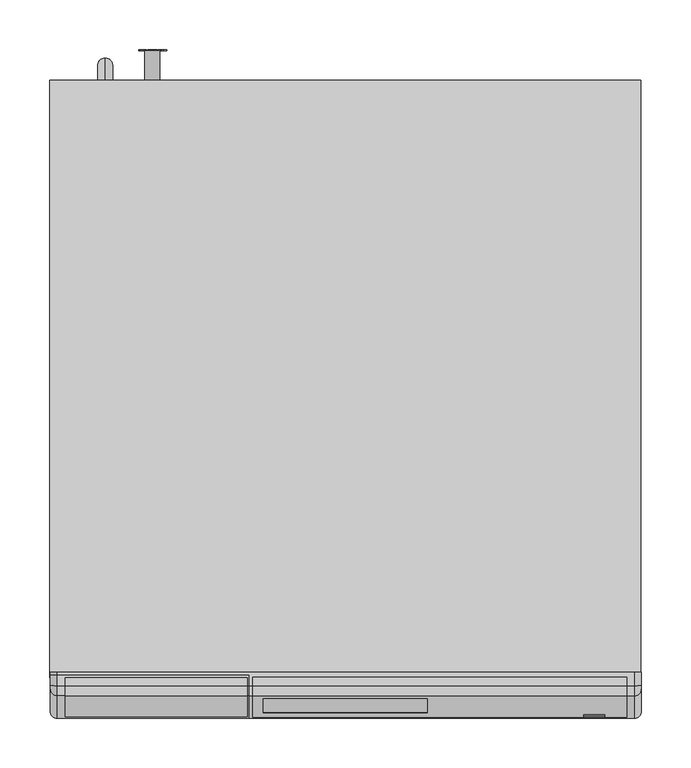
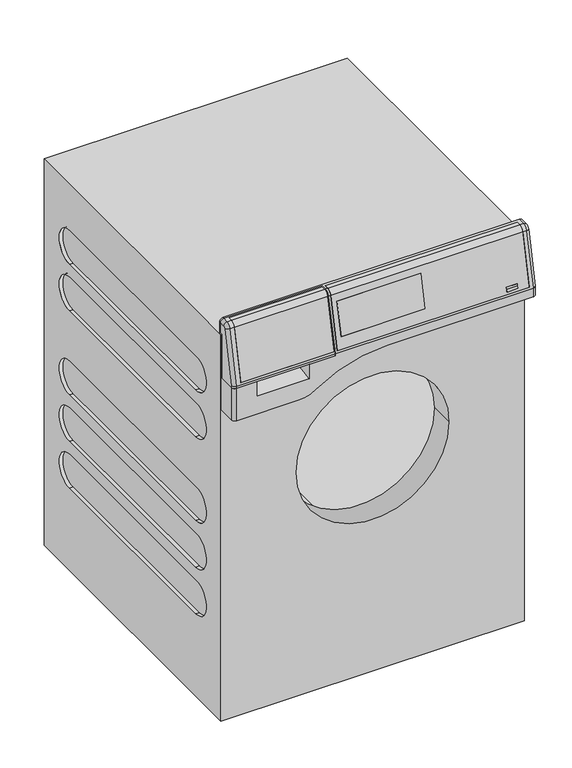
"""IFC4 building model written with IfcOpenShell, lengths in millimetres: proxy geometry, 11693340_GB_PWM307DP_LWCC : 51307172_GB_11693340_PWM307DP_LWCC."""

from ifc_helpers import new_model, si_unit, point, frame, frame_2d, origin, place, context, project, spatial, polyline, circle_curve, ellipse_curve, trimmed, segment, composite_curve, outline, extrude, source, transform, mapped, element, save
from ifc_brep_helpers import plane_surface, cylinder_surface, revolved_surface, advanced_brep


def specialty_equipment_33895398(model_context):
    return source(origin(), model_context, "Body", "SolidModel", [
        advanced_brep(
        [(-297.5, -634.5, 819.0), (-297.5, -640.0, 819.0), (-297.5, -640.0, 727.0), (-297.5, -671.0, 727.0), (-297.5, -671.0, 730.2642704), (-297.5, -648.6353607, 835.4816256), (-297.5, -644.8274781, 838.6486082), (-297.5, -634.5, 838.9190427), (-97.5, -655.4823939, 836.9370075), (-97.5, -678.0, 731.0), (-97.5, -678.0, 727.0), (-97.5, -640.0, 727.0), (-97.5, -640.0, 819.0), (-97.5, -634.5, 819.0), (-97.5, -634.5, 845.9214422), (-97.5, -645.0107168, 845.6462094), (-98.5, -655.4823939, 836.9370075), (-98.5, -677.1497738, 735.0), (-282.5, -677.1497738, 735.0), (-282.5, -655.4823939, 836.9370075), (-290.5, -655.4823939, 836.9370075), (-290.5, -678.0, 731.0), (-290.5, -678.0, 727.0), (-290.5, -634.5, 845.9214422), (-290.5, -645.0107168, 845.6462094), (-282.5, -645.0107168, 845.6462094), (-282.5, -636.5, 845.8690704), (-98.5, -636.5, 845.8690704), (-98.5, -645.0107168, 845.6462094), (-98.5, -654.5042463, 836.7290958), (-98.5, -676.1274332, 735.0), (-98.5, -636.5, 844.8687276), (-98.5, -644.9845398, 844.6465521), (-282.5, -654.5042463, 836.7290958), (-282.5, -644.9845398, 844.6465521), (-282.5, -636.5, 844.8687276), (-282.5, -676.1274332, 735.0)],
        [
            (0, 1),
            (1, 2),
            (2, 3),
            (3, 4),
            (4, 5),
            (5, 6, circle_curve(frame((-297.5, -644.7227703, 834.6499789), z_axis=(-1.0, 0.0, 0.0), x_axis=(0.0, -0.978147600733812, 0.20791169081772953)), 4.0)),
            (6, 7),
            (7, 0),
            (8, 9),
            (9, 10),
            (10, 11),
            (11, 12),
            (12, 13),
            (13, 14),
            (14, 15),
            (15, 8, circle_curve(frame((-97.5, -644.7227703, 834.6499789), z_axis=(1.0, 0.0, 0.0), x_axis=(0.0, 1.0, 0.0)), 11.0)),
            (8, 16),
            (16, 17),
            (17, 18),
            (18, 19),
            (19, 20),
            (20, 21),
            (21, 9),
            (21, 22),
            (22, 10),
            (22, 3, circle_curve(frame((-290.5, -671.0, 727.0), z_axis=(0.0, 0.0, -1.0), x_axis=(0.0, 1.0, 0.0)), 7.0)),
            (2, 11),
            (1, 12),
            (0, 13),
            (7, 23, ellipse_curve(frame((-290.5, -634.5, 838.9190427), z_axis=(0.0, 1.0, 0.0), x_axis=(0.0, 0.0, 1.0)), 7.0023995, 7.0)),
            (23, 14),
            (23, 24),
            (24, 25),
            (25, 26),
            (26, 27),
            (27, 28),
            (28, 15),
            (28, 16, circle_curve(frame((-98.5, -644.7227703, 834.6499789), z_axis=(1.0, 0.0, 0.0), x_axis=(0.0, 1.0, 0.0)), 11.0)),
            (19, 25, circle_curve(frame((-282.5, -644.7227703, 834.6499789), z_axis=(-1.0, 0.0, 0.0), x_axis=(0.0, 1.0, 0.0)), 11.0)),
            (24, 20, circle_curve(frame((-290.5, -644.7227703, 834.6499789), z_axis=(1.0, 0.0, 0.0), x_axis=(0.0, 1.0, 0.0)), 11.0)),
            (29, 30),
            (30, 17),
            (27, 31),
            (31, 32),
            (32, 29, circle_curve(frame((-98.5, -644.7227703, 834.6499789), z_axis=(1.0, 0.0, 0.0), x_axis=(0.0, 1.0, 0.0)), 10.0)),
            (33, 34, circle_curve(frame((-282.5, -644.7227703, 834.6499789), z_axis=(-1.0, 0.0, 0.0), x_axis=(0.0, 1.0, 0.0)), 10.0)),
            (34, 35),
            (35, 26),
            (18, 36),
            (36, 33),
            (29, 33),
            (36, 30),
            (32, 34),
            (31, 35),
            (6, 24, circle_curve(frame((-290.5, -644.8274781, 838.6486082), z_axis=(0.0, 0.9996573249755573, 0.026176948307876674), x_axis=(0.0, 0.026176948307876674, -0.9996573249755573)), 7.0)),
            (21, 4, ellipse_curve(frame((-290.5, -671.0, 730.2642704), z_axis=(0.0, -0.10452846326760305, -0.9945218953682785), x_axis=(0.0, -0.9945218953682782, 0.1045284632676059)), 7.038558, 7.0)),
            (20, 5, circle_curve(frame((-290.5, -648.6353607, 835.4816256), z_axis=(0.0, -0.2079116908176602, -0.9781476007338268), x_axis=(0.0, 0.9781476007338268, -0.2079116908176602)), 7.0)),
        ],
        [
            plane_surface(frame((-297.5, -655.4823939, 836.9370075), z_axis=(-1.0, 0.0, 0.0), x_axis=(0.0, 0.20791169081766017, 0.9781476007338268))),
            plane_surface(frame((-97.5, -655.4823939, 836.9370075), z_axis=(1.0, 0.0, 0.0), x_axis=(0.0, -0.20791169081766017, -0.9781476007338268))),
            plane_surface(frame((-97.5, -655.4823939, 836.9370075), z_axis=(0.0, -0.9781476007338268, 0.20791169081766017), x_axis=(-1.0, 0.0, 0.0))),
            plane_surface(frame((-97.5, -678.0, 731.0), z_axis=(0.0, -1.0, 0.0), x_axis=(-1.0, 0.0, 0.0))),
            plane_surface(frame((-97.5, -678.0, 727.0), z_axis=(0.0, 0.0, -1.0), x_axis=(-1.0, 0.0, 0.0))),
            plane_surface(frame((-97.5, -640.0, 727.0), z_axis=(0.0, 1.0, 0.0), x_axis=(-1.0, 0.0, 0.0))),
            plane_surface(frame((-97.5, -640.0, 819.0), z_axis=(0.0, 0.0, -1.0), x_axis=(-1.0, 0.0, 0.0))),
            plane_surface(frame((-97.5, -634.5, 819.0), z_axis=(0.0, 1.0, 0.0), x_axis=(-1.0, 0.0, 0.0))),
            plane_surface(frame((-97.5, -634.5, 845.9214422), z_axis=(0.0, -0.02617694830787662, 0.9996573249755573), x_axis=(-1.0, 0.0, 0.0))),
            cylinder_surface(frame((-297.5, -644.7227703, 834.6499789), z_axis=(1.0, 0.0, 0.0), x_axis=(0.0, 1.0, 0.0)), 11.0),
            plane_surface(frame((-98.5, -634.7227703, 834.6499789), z_axis=(-1.0, 0.0, 0.0), x_axis=(0.0, 0.0, -1.0))),
            plane_surface(frame((-282.5, -634.7227703, 834.6499789), z_axis=(1.0, 0.0, 0.0), x_axis=(0.0, 0.0, 1.0))),
            plane_surface(frame((-98.5, -676.1274332, 735.0), z_axis=(0.0, -0.9781476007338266, 0.2079116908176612), x_axis=(-1.0, 0.0, 0.0))),
            cylinder_surface(frame((-282.5, -644.7227703, 834.6499789), z_axis=(-1.0, 0.0, 0.0), x_axis=(0.0, 1.0, 0.0)), 10.0),
            plane_surface(frame((-98.5, -644.9845398, 844.6465521), z_axis=(0.0, -0.026176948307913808, 0.9996573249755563), x_axis=(-1.0, 0.0, 0.0))),
            plane_surface(frame((-98.5, -636.5, 844.8687276), z_axis=(0.0, -1.0, 0.0), x_axis=(-1.0, 0.0, 0.0))),
            plane_surface(frame((-98.5, -677.1497738, 735.0), z_axis=(0.0, 0.0, 1.0), x_axis=(-1.0, 0.0, 0.0))),
            cylinder_surface(frame((-290.5, -644.8274781, 838.6486082), z_axis=(0.0, 0.9996573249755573, 0.026176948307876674), x_axis=(0.0, 0.026176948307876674, -0.9996573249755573)), 7.0),
            cylinder_surface(frame((-290.5, -671.0, 727.0), z_axis=(0.0, 0.0, 1.0), x_axis=(0.0, 1.0, 0.0)), 7.0),
            cylinder_surface(frame((-290.5, -671.1529668, 729.5446182), z_axis=(0.0, 0.2079116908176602, 0.9781476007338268), x_axis=(0.0, 0.9781476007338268, -0.2079116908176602)), 7.0),
            revolved_surface(trimmed(ellipse_curve(frame((-290.5, -648.6353607, 835.4816256), z_axis=(0.0, -0.20791169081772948, -0.978147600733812), x_axis=(0.0, 0.978147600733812, -0.20791169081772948)), 7.0, 7.0), [point((-290.5, -655.4823939, 836.9370075))], [point((-297.5, -648.6353607, 835.4816256))], True, "CARTESIAN"), (-297.5, -644.7227703, 834.6499789), (-1.0, 0.0, 0.0)),
        ],
        [
            (0, [[1, 2, 3, 4, 5, 6, 7, 8]]),
            (1, [[9, 10, 11, 12, 13, 14, 15, 16]]),
            (2, [[-9, 17, 18, 19, 20, 21, 22, 23]]),
            (3, [[-10, -23, 24, 25]]),
            (4, [[-11, -25, 26, -3, 27]]),
            (5, [[-2, 28, -12, -27]]),
            (6, [[-1, 29, -13, -28]]),
            (7, [[-14, -29, -8, 30, 31]]),
            (8, [[-15, -31, 32, 33, 34, 35, 36, 37]]),
            (9, [[-16, -37, 38, -17]]),
            (9, [[39, -33, 40, -21]]),
            (10, [[41, 42, -18, -38, -36, 43, 44, 45]]),
            (11, [[46, 47, 48, -34, -39, -20, 49, 50]]),
            (12, [[-41, 51, -50, 52]]),
            (13, [[-45, 53, -46, -51]]),
            (14, [[-44, 54, -47, -53]]),
            (15, [[-43, -35, -48, -54]]),
            (16, [[-42, -52, -49, -19]]),
            (17, [[55, -32, -30, -7]]),
            (18, [[56, -4, -26, -24]]),
            (19, [[-56, -22, 57, -5]]),
            (20, [[-57, -40, -55, -6]]),
        ],
    ),
        extrude(outline(polyline([(-671.2386322, 758.0), (-672.2609728, 758.0), (-658.4447963, 823.0), (-657.4224557, 823.0), (-671.2386322, 758.0)])), frame((-82.5, 0.0, 0.0), z_axis=(1.0, 0.0, 0.0), x_axis=(0.0, 1.0, 0.0)), (0.0, 0.0, 1.0), 165.0),
        advanced_brep(
        [(284.0, -654.5042463, 836.7290958), (284.0, -644.9845398, 844.6465521), (284.0, -636.5, 844.8687276), (284.0, -636.5, 845.8690704), (284.0, -645.0107168, 845.6462094), (284.0, -655.4823939, 836.9370075), (284.0, -677.1497738, 735.0), (284.0, -676.1274332, 735.0), (-93.0, -654.5042463, 836.7290958), (-93.0, -676.1274332, 735.0), (-93.0, -677.1497738, 735.0), (-93.0, -655.4823939, 836.9370075), (-93.0, -645.0107168, 845.6462094), (-93.0, -636.5, 845.8690704), (-93.0, -636.5, 844.8687276), (-93.0, -644.9845398, 844.6465521), (82.5, -658.4447963, 823.0), (82.5, -672.2609728, 758.0), (-82.5, -672.2609728, 758.0), (-82.5, -658.4447963, 823.0), (82.5, -671.2386322, 758.0), (82.5, -657.4224557, 823.0), (-82.5, -657.4224557, 823.0), (-82.5, -671.2386322, 758.0)],
        [
            (0, 1, circle_curve(frame((284.0, -644.7227703, 834.6499789), z_axis=(-1.0, 0.0, 0.0), x_axis=(0.0, 1.0, 0.0)), 10.0)),
            (1, 2),
            (2, 3),
            (3, 4),
            (4, 5, circle_curve(frame((284.0, -644.7227703, 834.6499789), z_axis=(1.0, 0.0, 0.0), x_axis=(0.0, 1.0, 0.0)), 11.0)),
            (5, 6),
            (6, 7),
            (7, 0),
            (8, 9),
            (9, 10),
            (10, 11),
            (11, 12, circle_curve(frame((-93.0, -644.7227703, 834.6499789), z_axis=(-1.0, 0.0, 0.0), x_axis=(0.0, 1.0, 0.0)), 11.0)),
            (12, 13),
            (13, 14),
            (14, 15),
            (15, 8, circle_curve(frame((-93.0, -644.7227703, 834.6499789), z_axis=(1.0, 0.0, 0.0), x_axis=(0.0, 1.0, 0.0)), 10.0)),
            (0, 8),
            (15, 1),
            (14, 2),
            (13, 3),
            (12, 4),
            (11, 5),
            (10, 6),
            (16, 17),
            (17, 18),
            (18, 19),
            (19, 16),
            (9, 7),
            (20, 21),
            (21, 22),
            (22, 23),
            (23, 20),
            (20, 17),
            (16, 21),
            (22, 19),
            (18, 23),
        ],
        [
            plane_surface(frame((284.0, -634.7227703, 834.6499789), z_axis=(1.0, 0.0, 0.0), x_axis=(0.0, 0.0, -1.0))),
            plane_surface(frame((-93.0, -634.7227703, 834.6499789), z_axis=(-1.0, 0.0, 0.0), x_axis=(0.0, 0.0, 1.0))),
            revolved_surface(polyline([(-93.0, -634.7227703, 834.6499789), (284.0, -634.7227703, 834.6499789)]), (-93.0, -644.7227703, 834.6499789), (-1.0, 0.0, 0.0)),
            plane_surface(frame((284.0, -644.9845398, 844.6465521), z_axis=(0.0, 0.02617694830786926, -0.9996573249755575), x_axis=(-1.0, 0.0, 0.0))),
            plane_surface(frame((284.0, -636.5, 844.8687276), z_axis=(0.0, 1.0, 0.0), x_axis=(-1.0, 0.0, 0.0))),
            plane_surface(frame((284.0, -636.5, 845.8690704), z_axis=(0.0, -0.026176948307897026, 0.9996573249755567), x_axis=(-1.0, 0.0, 0.0))),
            cylinder_surface(frame((-93.0, -644.7227703, 834.6499789), z_axis=(1.0, 0.0, 0.0), x_axis=(0.0, 1.0, 0.0)), 11.0),
            plane_surface(frame((284.0, -655.4823939, 836.9370075), z_axis=(0.0, -0.9781476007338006, 0.20791169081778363), x_axis=(-1.0, 0.0, 0.0))),
            plane_surface(frame((284.0, -677.1497738, 735.0), z_axis=(0.0, 0.0, -1.0), x_axis=(-1.0, 0.0, 0.0))),
            plane_surface(frame((284.0, -676.1274332, 735.0), z_axis=(0.0, 0.9781476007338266, -0.2079116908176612), x_axis=(-1.0, 0.0, 0.0))),
            plane_surface(frame((82.5, -658.4447963, 823.0), z_axis=(-1.0, 0.0, 0.0), x_axis=(0.0, -1.0, 0.0))),
            plane_surface(frame((-82.5, -658.4447963, 823.0), z_axis=(1.0, 0.0, 0.0), x_axis=(0.0, 1.0, 0.0))),
            plane_surface(frame((82.5, -657.4224557, 823.0), z_axis=(0.0, 0.0, -1.0), x_axis=(-1.0, 0.0, 0.0))),
            plane_surface(frame((82.5, -672.2609728, 758.0), z_axis=(0.0, 0.0, 1.0), x_axis=(-1.0, 0.0, 0.0))),
        ],
        [
            (0, [[1, 2, 3, 4, 5, 6, 7, 8]]),
            (1, [[9, 10, 11, 12, 13, 14, 15, 16]]),
            (2, [[-1, 17, -16, 18]]),
            (3, [[-2, -18, -15, 19]]),
            (4, [[-3, -19, -14, 20]]),
            (5, [[-4, -20, -13, 21]]),
            (6, [[-5, -21, -12, 22]]),
            (7, [[-6, -22, -11, 23], [24, 25, 26, 27]]),
            (8, [[-7, -23, -10, 28]]),
            (9, [[-8, -28, -9, -17], [29, 30, 31, 32]]),
            (10, [[33, -24, 34, -29]]),
            (11, [[35, -26, 36, -31]]),
            (12, [[-34, -27, -35, -30]]),
            (13, [[-33, -32, -36, -25]]),
        ],
    ),
        advanced_brep(
        [(298.5, -637.0, 816.0), (298.5, -631.5, 816.0), (298.5, -631.5, 838.9976005), (298.5, -644.8274781, 838.6486082), (298.5, -648.6353607, 835.4816256), (298.5, -671.0, 730.2642704), (298.5, -671.0, 713.0), (298.5, -637.0, 713.0), (-297.5, -637.0, 816.0), (-297.5, -637.0, 660.0), (-297.5, -671.0, 660.0), (-297.5, -671.0, 727.0), (-297.5, -640.0, 727.0), (-297.5, -640.0, 819.0), (-297.5, -634.5, 819.0), (-297.5, -634.5, 838.9190427), (-297.5, -631.5, 838.9976005), (-297.5, -631.5, 816.0), (-290.5, -631.5, 846.0), (291.5, -631.5, 846.0), (284.0, -636.5, 845.8690704), (284.0, -645.0107168, 845.6462094), (291.5, -645.0107168, 845.6462094), (-290.5, -634.5, 845.9214422), (-97.5, -634.5, 845.9214422), (-97.5, -645.0107168, 845.6462094), (-93.0, -645.0107168, 845.6462094), (-93.0, -636.5, 845.8690704), (284.0, -655.4823939, 836.9370075), (291.5000072, -655.4823939, 836.9370075), (-93.0, -655.4823939, 836.9370075), (-97.5, -655.4823939, 836.9370075), (284.0, -677.1497738, 735.0), (-93.0, -677.1497738, 735.0), (-97.5, -678.0, 731.0), (291.5, -678.0, 731.0), (-97.5, -678.0, 727.0), (-148.5, -678.0, 727.0), (-148.5, -678.0, 697.0), (-251.5, -678.0, 697.0), (-251.5, -678.0, 727.0), (-290.5, -678.0, 727.0), (-290.5, -678.0, 660.0), (-170.6302935, -678.0, 660.0), (-135.780818, -678.0, 670.5165354), (5.0, -678.0, 713.0), (291.5, -678.0, 713.0), (-170.6302935, -637.0, 660.0), (5.0, -637.0, 713.0), (-135.780818, -637.0, 670.5165354), (284.0, -636.5, 844.8687276), (284.0, -644.9845398, 844.6465521), (284.0, -654.5042463, 836.7290958), (284.0, -676.1274332, 735.0), (-93.0, -676.1274332, 735.0), (-93.0, -654.5042463, 836.7290958), (-93.0, -644.9845398, 844.6465521), (-93.0, -636.5, 844.8687276), (-97.5, -634.5, 819.0), (-97.5, -640.0, 819.0), (-97.5, -640.0, 727.0), (-148.5, -640.0, 727.0), (-251.5, -640.0, 727.0), (-251.5, -640.0, 703.7004253), (-148.5, -640.0, 703.7004253)],
        [
            (0, 1),
            (1, 2),
            (2, 3),
            (3, 4, circle_curve(frame((298.5, -644.7227703, 834.6499789), z_axis=(1.0, 0.0, 0.0), x_axis=(0.0, -0.02617694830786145, 0.9996573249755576)), 4.0)),
            (4, 5),
            (5, 6),
            (6, 7),
            (7, 0),
            (8, 9),
            (9, 10),
            (10, 11),
            (11, 12),
            (12, 13),
            (13, 14),
            (14, 15),
            (15, 16),
            (16, 17),
            (17, 8),
            (0, 8),
            (17, 1),
            (16, 18, ellipse_curve(frame((-290.5, -631.5, 838.9976005), z_axis=(0.0, 1.0, 0.0), x_axis=(0.0, 0.0, 0.9999999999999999)), 7.0023995, 7.0)),
            (18, 19),
            (19, 2, ellipse_curve(frame((291.5, -631.5, 838.9976005), z_axis=(0.0, 1.0, 0.0), x_axis=(0.0, 0.0, -1.0)), 7.0023995, 7.0)),
            (20, 21),
            (21, 22),
            (22, 19),
            (18, 23),
            (23, 24),
            (24, 25),
            (25, 26),
            (26, 27),
            (27, 20),
            (21, 28, circle_curve(frame((284.0, -644.7227703, 834.6499789), z_axis=(1.0, 0.0, 0.0), x_axis=(0.0, 1.0, 0.0)), 11.0)),
            (28, 29),
            (29, 22, circle_curve(frame((291.5, -644.7227703, 834.6499789), z_axis=(-1.0, 0.0, 0.0), x_axis=(0.0, 1.0, 0.0)), 11.0)),
            (30, 26, circle_curve(frame((-93.0, -644.7227703, 834.6499789), z_axis=(-1.0, 0.0, 0.0), x_axis=(0.0, 1.0, 0.0)), 11.0)),
            (25, 31, circle_curve(frame((-97.5, -644.7227703, 834.6499789), z_axis=(1.0, 0.0, 0.0), x_axis=(0.0, 1.0, 0.0)), 11.0)),
            (31, 30),
            (28, 32),
            (32, 33),
            (33, 30),
            (31, 34),
            (34, 35),
            (35, 29),
            (34, 36),
            (36, 37),
            (37, 38),
            (38, 39),
            (39, 40),
            (40, 41),
            (41, 42),
            (42, 43),
            (43, 44, circle_curve(frame((-170.6302935, -678.0, 723.0), z_axis=(0.0, -1.0, 0.0), x_axis=(1.0, 0.0, 0.0)), 63.0)),
            (44, 45, circle_curve(frame((5.0, -678.0, 458.5), z_axis=(0.0, 1.0, 0.0), x_axis=(1.0, 0.0, 0.0)), 254.5)),
            (45, 46),
            (46, 35),
            (9, 47),
            (47, 43),
            (42, 10, circle_curve(frame((-290.5, -671.0, 660.0), z_axis=(0.0, 0.0, -1.0), x_axis=(0.0, 1.0, 0.0)), 7.0)),
            (7, 48),
            (48, 49, circle_curve(frame((5.0, -637.0, 458.5), z_axis=(0.0, -1.0, 0.0), x_axis=(1.0, 0.0, 0.0)), 254.5)),
            (49, 47, circle_curve(frame((-170.6302935, -637.0, 723.0), z_axis=(0.0, 1.0, 0.0), x_axis=(1.0, 0.0, 0.0)), 63.0)),
            (20, 50),
            (50, 51),
            (51, 52, circle_curve(frame((284.0, -644.7227703, 834.6499789), z_axis=(1.0, 0.0, 0.0), x_axis=(0.0, 1.0, 0.0)), 10.0)),
            (52, 53),
            (53, 32),
            (33, 54),
            (54, 55),
            (55, 56, circle_curve(frame((-93.0, -644.7227703, 834.6499789), z_axis=(-1.0, 0.0, 0.0), x_axis=(0.0, 1.0, 0.0)), 10.0)),
            (56, 57),
            (57, 27),
            (53, 54),
            (52, 55),
            (51, 56),
            (50, 57),
            (24, 58),
            (58, 59),
            (59, 60),
            (60, 36),
            (60, 61),
            (61, 37),
            (62, 12),
            (11, 41, circle_curve(frame((-290.5, -671.0, 727.0), z_axis=(0.0, 0.0, 1.0), x_axis=(0.0, 1.0, 0.0)), 7.0)),
            (40, 62),
            (59, 13),
            (62, 63),
            (63, 64),
            (64, 61),
            (58, 14),
            (23, 15, ellipse_curve(frame((-290.5, -634.5, 838.9190427), z_axis=(0.0, -1.0, 0.0), x_axis=(0.0, 0.0, 0.9999999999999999)), 7.0023995, 7.0)),
            (64, 38),
            (39, 63),
            (22, 3, circle_curve(frame((291.5, -644.8274781, 838.6486082), z_axis=(0.0, 0.9996573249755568, 0.02617694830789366), x_axis=(1.0, 0.0, 0.0)), 7.0)),
            (29, 4, circle_curve(frame((291.5, -648.6353607, 835.4816256), z_axis=(0.0, 0.20791169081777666, 0.9781476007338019), x_axis=(1.0, 0.0, 0.0)), 7.0)),
            (35, 5, ellipse_curve(frame((291.5, -671.0, 730.2642704), z_axis=(0.0, 0.10452846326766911, 0.9945218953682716), x_axis=(0.0, -0.9945218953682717, 0.10452846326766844)), 7.038558, 7.0)),
            (46, 6, circle_curve(frame((291.5, -671.0, 713.0), z_axis=(0.0, 0.0, 1.0), x_axis=(1.0, 0.0, 0.0)), 7.0)),
            (45, 48),
            (44, 49),
        ],
        [
            plane_surface(frame((298.5, -631.5, 816.0), z_axis=(1.0, 0.0, 0.0), x_axis=(0.0, 1.0, 0.0))),
            plane_surface(frame((-297.5, -631.5, 816.0), z_axis=(-1.0, 0.0, 0.0), x_axis=(0.0, -1.0, 0.0))),
            plane_surface(frame((298.5, -637.0, 816.0), z_axis=(0.0, 0.0, -1.0), x_axis=(-1.0, 0.0, 0.0))),
            plane_surface(frame((298.5, -631.5, 816.0), z_axis=(0.0, 1.0, 0.0), x_axis=(-1.0, 0.0, 0.0))),
            plane_surface(frame((298.5, -631.5, 846.0), z_axis=(0.0, -0.026176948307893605, 0.9996573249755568), x_axis=(-1.0, 0.0, 0.0))),
            cylinder_surface(frame((-297.5, -644.7227703, 834.6499789), z_axis=(1.0, 0.0, 0.0), x_axis=(0.0, 1.0, 0.0)), 11.0),
            plane_surface(frame((298.5, -655.4823939, 836.9370075), z_axis=(0.0, -0.9781476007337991, 0.20791169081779), x_axis=(-1.0, 0.0, 0.0))),
            plane_surface(frame((298.5, -678.0, 731.0), z_axis=(0.0, -1.0, 0.0), x_axis=(-1.0, 0.0, 0.0))),
            plane_surface(frame((298.5, -678.0, 660.0), z_axis=(0.0, 0.0, -1.0), x_axis=(-1.0, 0.0, 0.0))),
            plane_surface(frame((298.5, -637.0, 660.0), z_axis=(0.0, 1.0, 0.0), x_axis=(-1.0, 0.0, 0.0))),
            plane_surface(frame((284.0, -677.1497738, 735.0), z_axis=(-1.0, 0.0, 0.0), x_axis=(0.0, 1.0, 0.0))),
            plane_surface(frame((-93.0, -677.1497738, 735.0), z_axis=(1.0, 0.0, 0.0), x_axis=(0.0, -1.0, 0.0))),
            plane_surface(frame((284.0, -677.1497738, 735.0), z_axis=(0.0, 0.0, 1.0), x_axis=(-1.0, 0.0, 0.0))),
            plane_surface(frame((284.0, -676.1274332, 735.0), z_axis=(0.0, -0.9781476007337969, 0.20791169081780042), x_axis=(-1.0, 0.0, 0.0))),
            cylinder_surface(frame((-93.0, -644.7227703, 834.6499789), z_axis=(-1.0, 0.0, 0.0), x_axis=(0.0, 1.0, 0.0)), 10.0),
            plane_surface(frame((284.0, -644.9845398, 844.6465521), z_axis=(0.0, -0.026176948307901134, 0.9996573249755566), x_axis=(-1.0, 0.0, 0.0))),
            plane_surface(frame((284.0, -636.5, 844.8687276), z_axis=(0.0, -1.0, 0.0), x_axis=(-1.0, 0.0, 0.0))),
            plane_surface(frame((-97.5, -678.0, 727.0), z_axis=(-1.0, 0.0, 0.0), x_axis=(0.0, 1.0, 0.0))),
            plane_surface(frame((-97.5, -678.0, 727.0), z_axis=(0.0, 0.0, 1.0), x_axis=(-1.0, 0.0, 0.0))),
            plane_surface(frame((-97.5, -640.0, 727.0), z_axis=(0.0, -1.0, 0.0), x_axis=(-1.0, 0.0, 0.0))),
            plane_surface(frame((-97.5, -640.0, 819.0), z_axis=(0.0, 0.0, 1.0), x_axis=(-1.0, 0.0, 0.0))),
            plane_surface(frame((-97.5, -634.5, 819.0), z_axis=(0.0, -1.0, 0.0), x_axis=(-1.0, 0.0, 0.0))),
            plane_surface(frame((-148.5, -678.0, 697.0), z_axis=(-1.0000000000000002, 0.0, 0.0), x_axis=(0.0, 0.9848077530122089, 0.17364817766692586))),
            plane_surface(frame((-251.5, -678.0, 697.0), z_axis=(1.0000000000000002, 0.0, 0.0), x_axis=(0.0, -0.9848077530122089, -0.17364817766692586))),
            plane_surface(frame((-148.5, -678.0, 697.0), z_axis=(0.0, -0.17364817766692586, 0.9848077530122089), x_axis=(-1.0, 0.0, 0.0))),
            cylinder_surface(frame((-290.5, -671.0, 660.0), z_axis=(0.0, 0.0, 1.0), x_axis=(0.0, 1.0, 0.0)), 7.0),
            cylinder_surface(frame((-290.5, -644.8274781, 838.6486082), z_axis=(0.0, 0.9996573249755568, 0.02617694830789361), x_axis=(0.0, 0.02617694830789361, -0.9996573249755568)), 7.0),
            cylinder_surface(frame((291.5, -631.3167614, 839.0023987), z_axis=(0.0, -0.9996573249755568, -0.02617694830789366), x_axis=(1.0, 0.0, 0.0)), 7.0),
            revolved_surface(trimmed(ellipse_curve(frame((291.5, -644.8274781, 838.6486082), z_axis=(0.0, 0.9996573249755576, 0.026176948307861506), x_axis=(1.0, 0.0, 0.0)), 7.0, 7.0), [point((291.5, -645.0107168, 845.6462094))], [point((298.5, -644.8274781, 838.6486082))], True, "CARTESIAN"), (298.5, -644.7227703, 834.6499789), (1.0, 0.0, 0.0)),
            cylinder_surface(frame((291.5, -648.6353607, 835.4816256), z_axis=(0.0, -0.20791169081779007, -0.9781476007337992), x_axis=(1.0, 0.0, 0.0)), 7.0),
            cylinder_surface(frame((291.5, -671.0, 731.0), z_axis=(0.0, 0.0, -1.0), x_axis=(1.0, 0.0, 0.0)), 7.0),
            plane_surface(frame((298.5, -678.0, 713.0), z_axis=(0.0, 0.0, -1.0), x_axis=(0.0, 1.0, 0.0))),
            revolved_surface(polyline([(259.5, -678.0, 458.5), (259.5, -637.0, 458.5)]), (5.0, -637.0, 458.5), (0.0, -1.0, 0.0)),
            cylinder_surface(frame((-170.6302935, -637.0, 723.0), z_axis=(0.0, 1.0, 0.0), x_axis=(1.0, 0.0, 0.0)), 63.0),
        ],
        [
            (0, [[1, 2, 3, 4, 5, 6, 7, 8]]),
            (1, [[9, 10, 11, 12, 13, 14, 15, 16, 17, 18]]),
            (2, [[-1, 19, -18, 20]]),
            (3, [[-20, -17, 21, 22, 23, -2]]),
            (4, [[24, 25, 26, -22, 27, 28, 29, 30, 31, 32]]),
            (5, [[33, 34, 35, -25]]),
            (5, [[36, -30, 37, 38]]),
            (6, [[39, 40, 41, -38, 42, 43, 44, -34]]),
            (7, [[45, 46, 47, 48, 49, 50, 51, 52, 53, 54, 55, 56, -43]]),
            (8, [[-10, 57, 58, -52, 59]]),
            (9, [[-9, -19, -8, 60, 61, 62, -57]]),
            (10, [[63, 64, 65, 66, 67, -39, -33, -24]]),
            (11, [[68, 69, 70, 71, 72, -31, -36, -41]]),
            (12, [[-67, 73, -68, -40]]),
            (13, [[-66, 74, -69, -73]]),
            (14, [[-65, 75, -70, -74]]),
            (15, [[-64, 76, -71, -75]]),
            (16, [[-63, -32, -72, -76]]),
            (17, [[77, 78, 79, 80, -45, -42, -37, -29]]),
            (18, [[-80, 81, 82, -46]]),
            (18, [[83, -12, 84, -50, 85]]),
            (19, [[-79, 86, -13, -83, 87, 88, 89, -81]]),
            (20, [[-78, 90, -14, -86]]),
            (21, [[-77, -28, 91, -15, -90]]),
            (22, [[-89, 92, -47, -82]]),
            (23, [[93, -87, -85, -49]]),
            (24, [[-92, -88, -93, -48]]),
            (25, [[-11, -59, -51, -84]]),
            (26, [[-16, -91, -27, -21]]),
            (27, [[94, -3, -23, -26]]),
            (28, [[-94, -35, 95, -4]]),
            (29, [[-95, -44, 96, -5]]),
            (30, [[-96, -56, 97, -6]]),
            (31, [[98, -60, -7, -97, -55]]),
            (32, [[-98, -54, 99, -61]]),
            (33, [[-99, -53, -58, -62]]),
        ],
    ),
        extrude(outline(polyline([(-675.8744344, 741.0), (-678.0, 741.0), (-676.8772818, 746.2819736), (-675.6098453, 749.0), (-674.1739819, 749.0), (-675.8744344, 741.0)])), frame((240.5, 0.0, 0.0), z_axis=(1.0, 0.0, 0.0), x_axis=(0.0, 1.0, 0.0)), (0.0, 0.0, 1.0), 21.0),
        extrude(outline(composite_curve([segment(polyline([(-676.1274332, 735.0), (-677.1497738, 735.0), (-655.4823939, 836.9370075)]), True, "CONTINUOUS"), segment(trimmed(circle_curve(frame_2d((-644.7227703, 834.6499789)), 11.0), [point((-655.4823939, 836.9370075))], [point((-645.0107168, 845.6462094))], False, "CARTESIAN"), True, "CONTINUOUS"), segment(polyline([(-645.0107168, 845.6462094), (-636.5, 845.8690704), (-636.5, 844.8687276), (-644.9845398, 844.6465521)]), True, "CONTINUOUS"), segment(trimmed(circle_curve(frame_2d((-644.7227703, 834.6499789)), 10.0), [point((-644.9845398, 844.6465521))], [point((-654.5042463, 836.7290958))], True, "CARTESIAN"), True, "CONTINUOUS"), segment(polyline([(-654.5042463, 836.7290958), (-676.1274332, 735.0)]), True, "CONTINUOUS")], self_intersect=False)), frame((-282.5, 0.0, 0.0), z_axis=(1.0, 0.0, 0.0), x_axis=(0.0, 1.0, 0.0)), (0.0, 0.0, 1.0), 184.0),
        advanced_brep(
        [(291.0, -552.0, 720.0), (291.0, -552.0, 650.0), (291.0, -122.0, 650.0), (291.0, -122.0, 720.0), (291.0, -552.0, 623.0), (291.0, -552.0, 553.0), (291.0, -122.0, 553.0), (291.0, -122.0, 623.0), (291.0, -552.0, 352.0), (291.0, -552.0, 282.0), (291.0, -122.0, 282.0), (291.0, -122.0, 352.0), (291.0, -552.0, 255.0), (291.0, -552.0, 185.0), (291.0, -122.0, 185.0), (291.0, -122.0, 255.0), (298.0, -552.0, 720.0), (298.0, -552.0, 650.0), (298.0, -122.0, 650.0), (298.0, -122.0, 720.0), (298.0, -552.0, 623.0), (298.0, -552.0, 553.0), (298.0, -122.0, 553.0), (298.0, -122.0, 623.0), (298.0, -552.0, 352.0), (298.0, -552.0, 282.0), (298.0, -122.0, 282.0), (298.0, -122.0, 352.0), (298.0, -552.0, 255.0), (298.0, -552.0, 185.0), (298.0, -122.0, 185.0), (298.0, -122.0, 255.0), (298.0, -35.0, 816.0), (298.0, -35.0, 13.5), (-298.0, -35.0, 13.5), (-298.0, -35.0, 816.0), (298.0, -637.0, 816.0), (-298.0, -637.0, 816.0), (-298.0, -637.0, 13.5), (298.0, -637.0, 13.5), (150.0, -637.0, 478.0), (-150.0, -637.0, 478.0), (298.0, -552.0, 379.0), (298.0, -552.0, 449.0), (298.0, -122.0, 449.0), (298.0, -122.0, 379.0), (-298.0, -552.0, 720.0), (-298.0, -552.0, 650.0), (-298.0, -122.0, 650.0), (-298.0, -122.0, 720.0), (-298.0, -552.0, 623.0), (-298.0, -552.0, 553.0), (-298.0, -122.0, 553.0), (-298.0, -122.0, 623.0), (-298.0, -552.0, 352.0), (-298.0, -552.0, 282.0), (-298.0, -122.0, 282.0), (-298.0, -122.0, 352.0), (-298.0, -552.0, 255.0), (-298.0, -552.0, 185.0), (-298.0, -122.0, 185.0), (-298.0, -122.0, 255.0), (-298.0, -552.0, 379.0), (-298.0, -122.0, 379.0), (-298.0, -122.0, 449.0), (-298.0, -552.0, 449.0), (291.0, -552.0, 449.0), (291.0, -552.0, 379.0), (291.0, -122.0, 379.0), (291.0, -122.0, 449.0), (-291.0, -552.0, 720.0), (-291.0, -122.0, 720.0), (-291.0, -122.0, 650.0), (-291.0, -552.0, 650.0), (-291.0, -552.0, 623.0), (-291.0, -122.0, 623.0), (-291.0, -122.0, 553.0), (-291.0, -552.0, 553.0), (-291.0, -552.0, 352.0), (-291.0, -122.0, 352.0), (-291.0, -122.0, 282.0), (-291.0, -552.0, 282.0), (-291.0, -552.0, 255.0), (-291.0, -122.0, 255.0), (-291.0, -122.0, 185.0), (-291.0, -552.0, 185.0), (-291.0, -552.0, 449.0), (-291.0, -122.0, 449.0), (-291.0, -122.0, 379.0), (-291.0, -552.0, 379.0), (0.0, -200.0, 234.0), (0.0, -200.0, 722.0), (0.0, -589.0, 234.0), (0.0, -589.0, 722.0), (-150.0, -589.0, 478.0), (150.0, -589.0, 478.0)],
        [
            (0, 1, circle_curve(frame((291.0, -552.0, 685.0), z_axis=(1.0, 0.0, 0.0), x_axis=(0.0, 1.0, 0.0)), 35.0)),
            (1, 2),
            (2, 3, circle_curve(frame((291.0, -122.0, 685.0), z_axis=(1.0, 0.0, 0.0), x_axis=(0.0, 1.0, 0.0)), 35.0)),
            (3, 0),
            (4, 5, circle_curve(frame((291.0, -552.0, 588.0), z_axis=(1.0, 0.0, 0.0), x_axis=(0.0, 1.0, 0.0)), 35.0)),
            (5, 6),
            (6, 7, circle_curve(frame((291.0, -122.0, 588.0), z_axis=(1.0, 0.0, 0.0), x_axis=(0.0, 1.0, 0.0)), 35.0)),
            (7, 4),
            (8, 9, circle_curve(frame((291.0, -552.0, 317.0), z_axis=(1.0, 0.0, 0.0), x_axis=(0.0, 1.0, 0.0)), 35.0)),
            (9, 10),
            (10, 11, circle_curve(frame((291.0, -122.0, 317.0), z_axis=(1.0, 0.0, 0.0), x_axis=(0.0, 1.0, 0.0)), 35.0)),
            (11, 8),
            (12, 13, circle_curve(frame((291.0, -552.0, 220.0), z_axis=(1.0, 0.0, 0.0), x_axis=(0.0, 1.0, 0.0)), 35.0)),
            (13, 14),
            (14, 15, circle_curve(frame((291.0, -122.0, 220.0), z_axis=(1.0, 0.0, 0.0), x_axis=(0.0, 1.0, 0.0)), 35.0)),
            (15, 12),
            (0, 16),
            (16, 17, circle_curve(frame((298.0, -552.0, 685.0), z_axis=(1.0, 0.0, 0.0), x_axis=(0.0, 1.0, 0.0)), 35.0)),
            (17, 1),
            (17, 18),
            (18, 2),
            (18, 19, circle_curve(frame((298.0, -122.0, 685.0), z_axis=(1.0, 0.0, 0.0), x_axis=(0.0, 1.0, 0.0)), 35.0)),
            (19, 3),
            (19, 16),
            (4, 20),
            (20, 21, circle_curve(frame((298.0, -552.0, 588.0), z_axis=(1.0, 0.0, 0.0), x_axis=(0.0, 1.0, 0.0)), 35.0)),
            (21, 5),
            (21, 22),
            (22, 6),
            (22, 23, circle_curve(frame((298.0, -122.0, 588.0), z_axis=(1.0, 0.0, 0.0), x_axis=(0.0, 1.0, 0.0)), 35.0)),
            (23, 7),
            (23, 20),
            (8, 24),
            (24, 25, circle_curve(frame((298.0, -552.0, 317.0), z_axis=(1.0, 0.0, 0.0), x_axis=(0.0, 1.0, 0.0)), 35.0)),
            (25, 9),
            (25, 26),
            (26, 10),
            (26, 27, circle_curve(frame((298.0, -122.0, 317.0), z_axis=(1.0, 0.0, 0.0), x_axis=(0.0, 1.0, 0.0)), 35.0)),
            (27, 11),
            (27, 24),
            (12, 28),
            (28, 29, circle_curve(frame((298.0, -552.0, 220.0), z_axis=(1.0, 0.0, 0.0), x_axis=(0.0, 1.0, 0.0)), 35.0)),
            (29, 13),
            (29, 30),
            (30, 14),
            (30, 31, circle_curve(frame((298.0, -122.0, 220.0), z_axis=(1.0, 0.0, 0.0), x_axis=(0.0, 1.0, 0.0)), 35.0)),
            (31, 15),
            (31, 28),
            (32, 33),
            (33, 34),
            (34, 35),
            (35, 32),
            (36, 37),
            (37, 38),
            (38, 39),
            (39, 36),
            (40, 41, circle_curve(frame((0.0, -637.0, 478.0), z_axis=(0.0, 1.0, 0.0), x_axis=(-1.0, 0.0, 0.0)), 150.0)),
            (41, 40, circle_curve(frame((0.0, -637.0, 478.0), z_axis=(0.0, 1.0, 0.0), x_axis=(-1.0, 0.0, 0.0)), 150.0)),
            (32, 36),
            (39, 33),
            (42, 43, circle_curve(frame((298.0, -552.0, 414.0), z_axis=(-1.0, 0.0, 0.0), x_axis=(0.0, 1.0, 0.0)), 35.0)),
            (43, 44),
            (44, 45, circle_curve(frame((298.0, -122.0, 414.0), z_axis=(-1.0, 0.0, 0.0), x_axis=(0.0, 1.0, 0.0)), 35.0)),
            (45, 42),
            (38, 34),
            (37, 35),
            (46, 47, circle_curve(frame((-298.0, -552.0, 685.0), z_axis=(1.0, 0.0, 0.0), x_axis=(0.0, 1.0, 0.0)), 35.0)),
            (47, 48),
            (48, 49, circle_curve(frame((-298.0, -122.0, 685.0), z_axis=(1.0, 0.0, 0.0), x_axis=(0.0, 1.0, 0.0)), 35.0)),
            (49, 46),
            (50, 51, circle_curve(frame((-298.0, -552.0, 588.0), z_axis=(1.0, 0.0, 0.0), x_axis=(0.0, 1.0, 0.0)), 35.0)),
            (51, 52),
            (52, 53, circle_curve(frame((-298.0, -122.0, 588.0), z_axis=(1.0, 0.0, 0.0), x_axis=(0.0, 1.0, 0.0)), 35.0)),
            (53, 50),
            (54, 55, circle_curve(frame((-298.0, -552.0, 317.0), z_axis=(1.0, 0.0, 0.0), x_axis=(0.0, 1.0, 0.0)), 35.0)),
            (55, 56),
            (56, 57, circle_curve(frame((-298.0, -122.0, 317.0), z_axis=(1.0, 0.0, 0.0), x_axis=(0.0, 1.0, 0.0)), 35.0)),
            (57, 54),
            (58, 59, circle_curve(frame((-298.0, -552.0, 220.0), z_axis=(1.0, 0.0, 0.0), x_axis=(0.0, 1.0, 0.0)), 35.0)),
            (59, 60),
            (60, 61, circle_curve(frame((-298.0, -122.0, 220.0), z_axis=(1.0, 0.0, 0.0), x_axis=(0.0, 1.0, 0.0)), 35.0)),
            (61, 58),
            (62, 63),
            (63, 64, circle_curve(frame((-298.0, -122.0, 414.0), z_axis=(1.0, 0.0, 0.0), x_axis=(0.0, 1.0, 0.0)), 35.0)),
            (64, 65),
            (65, 62, circle_curve(frame((-298.0, -552.0, 414.0), z_axis=(1.0, 0.0, 0.0), x_axis=(0.0, 1.0, 0.0)), 35.0)),
            (66, 67, circle_curve(frame((291.0, -552.0, 414.0), z_axis=(1.0, 0.0, 0.0), x_axis=(0.0, 1.0, 0.0)), 35.0)),
            (67, 68),
            (68, 69, circle_curve(frame((291.0, -122.0, 414.0), z_axis=(1.0, 0.0, 0.0), x_axis=(0.0, 1.0, 0.0)), 35.0)),
            (69, 66),
            (66, 43),
            (42, 67),
            (45, 68),
            (44, 69),
            (70, 71),
            (71, 72, circle_curve(frame((-291.0, -122.0, 685.0), z_axis=(-1.0, 0.0, 0.0), x_axis=(0.0, 1.0, 0.0)), 35.0)),
            (72, 73),
            (73, 70, circle_curve(frame((-291.0, -552.0, 685.0), z_axis=(-1.0, 0.0, 0.0), x_axis=(0.0, 1.0, 0.0)), 35.0)),
            (74, 75),
            (75, 76, circle_curve(frame((-291.0, -122.0, 588.0), z_axis=(-1.0, 0.0, 0.0), x_axis=(0.0, 1.0, 0.0)), 35.0)),
            (76, 77),
            (77, 74, circle_curve(frame((-291.0, -552.0, 588.0), z_axis=(-1.0, 0.0, 0.0), x_axis=(0.0, 1.0, 0.0)), 35.0)),
            (78, 79),
            (79, 80, circle_curve(frame((-291.0, -122.0, 317.0), z_axis=(-1.0, 0.0, 0.0), x_axis=(0.0, 1.0, 0.0)), 35.0)),
            (80, 81),
            (81, 78, circle_curve(frame((-291.0, -552.0, 317.0), z_axis=(-1.0, 0.0, 0.0), x_axis=(0.0, 1.0, 0.0)), 35.0)),
            (82, 83),
            (83, 84, circle_curve(frame((-291.0, -122.0, 220.0), z_axis=(-1.0, 0.0, 0.0), x_axis=(0.0, 1.0, 0.0)), 35.0)),
            (84, 85),
            (85, 82, circle_curve(frame((-291.0, -552.0, 220.0), z_axis=(-1.0, 0.0, 0.0), x_axis=(0.0, 1.0, 0.0)), 35.0)),
            (73, 47),
            (46, 70),
            (72, 48),
            (71, 49),
            (77, 51),
            (50, 74),
            (76, 52),
            (75, 53),
            (81, 55),
            (54, 78),
            (80, 56),
            (79, 57),
            (85, 59),
            (58, 82),
            (84, 60),
            (83, 61),
            (86, 87),
            (87, 88, circle_curve(frame((-291.0, -122.0, 414.0), z_axis=(-1.0, 0.0, 0.0), x_axis=(0.0, 1.0, 0.0)), 35.0)),
            (88, 89),
            (89, 86, circle_curve(frame((-291.0, -552.0, 414.0), z_axis=(-1.0, 0.0, 0.0), x_axis=(0.0, 1.0, 0.0)), 35.0)),
            (88, 63),
            (62, 89),
            (86, 65),
            (64, 87),
            (90, 91, circle_curve(frame((0.0, -200.0, 478.0), z_axis=(0.0, -1.0, 0.0), x_axis=(0.0, 0.0, 1.0)), 244.0)),
            (91, 90, circle_curve(frame((0.0, -200.0, 478.0), z_axis=(0.0, -1.0, 0.0), x_axis=(0.0, 0.0, 1.0)), 244.0)),
            (92, 93, circle_curve(frame((0.0, -589.0, 478.0), z_axis=(0.0, 1.0, 0.0), x_axis=(0.0, 0.0, 1.0)), 244.0)),
            (93, 92, circle_curve(frame((0.0, -589.0, 478.0), z_axis=(0.0, 1.0, 0.0), x_axis=(0.0, 0.0, 1.0)), 244.0)),
            (94, 95, circle_curve(frame((0.0, -589.0, 478.0), z_axis=(0.0, -1.0, 0.0), x_axis=(-1.0, 0.0, 0.0)), 150.0)),
            (95, 94, circle_curve(frame((0.0, -589.0, 478.0), z_axis=(0.0, -1.0, 0.0), x_axis=(-1.0, 0.0, 0.0)), 150.0)),
            (90, 92),
            (93, 91),
            (94, 41),
            (40, 95),
        ],
        [
            plane_surface(frame((291.0, -517.0, 685.0), z_axis=(1.0, 0.0, 0.0), x_axis=(0.0, 0.0, -1.0))),
            revolved_surface(polyline([(298.0, -517.0, 685.0), (291.0, -517.0, 685.0)]), (291.0, -552.0, 685.0), (1.0, 0.0, 0.0)),
            plane_surface(frame((298.0, -552.0, 650.0), z_axis=(0.0, 0.0, 1.0), x_axis=(-1.0, 0.0, 0.0))),
            revolved_surface(polyline([(298.0, -87.0, 685.0), (291.0, -87.0, 685.0)]), (291.0, -122.0, 685.0), (1.0, 0.0, 0.0)),
            plane_surface(frame((298.0, -122.0, 720.0), z_axis=(0.0, 0.0, -1.0), x_axis=(-1.0, 0.0, 0.0))),
            revolved_surface(polyline([(298.0, -517.0, 588.0), (291.0, -517.0, 588.0)]), (298.0, -552.0, 588.0), (1.0, 0.0, 0.0)),
            plane_surface(frame((298.0, -552.0, 553.0), z_axis=(0.0, 0.0, 1.0), x_axis=(-1.0, 0.0, 0.0))),
            revolved_surface(polyline([(298.0, -87.0, 588.0), (291.0, -87.0, 588.0)]), (298.0, -122.0, 588.0), (1.0, 0.0, 0.0)),
            plane_surface(frame((298.0, -122.0, 623.0), z_axis=(0.0, 0.0, -1.0), x_axis=(-1.0, 0.0, 0.0))),
            revolved_surface(polyline([(298.0, -517.0, 317.0), (291.0, -517.0, 317.0)]), (298.0, -552.0, 317.0), (1.0, 0.0, 0.0)),
            plane_surface(frame((298.0, -552.0, 282.0), z_axis=(0.0, 0.0, 1.0), x_axis=(-1.0, 0.0, 0.0))),
            revolved_surface(polyline([(298.0, -87.0, 317.0), (291.0, -87.0, 317.0)]), (298.0, -122.0, 317.0), (1.0, 0.0, 0.0)),
            plane_surface(frame((298.0, -122.0, 352.0), z_axis=(0.0, 0.0, -1.0), x_axis=(-1.0, 0.0, 0.0))),
            revolved_surface(polyline([(298.0, -517.0, 220.0), (291.0, -517.0, 220.0)]), (298.0, -552.0, 220.0), (1.0, 0.0, 0.0)),
            plane_surface(frame((298.0, -552.0, 185.0), z_axis=(0.0, 0.0, 1.0), x_axis=(-1.0, 0.0, 0.0))),
            revolved_surface(polyline([(298.0, -87.0, 220.0), (291.0, -87.0, 220.0)]), (298.0, -122.0, 220.0), (1.0, 0.0, 0.0)),
            plane_surface(frame((298.0, -122.0, 255.0), z_axis=(0.0, 0.0, -1.0), x_axis=(-1.0, 0.0, 0.0))),
            plane_surface(frame((298.0, -35.0, 816.0), z_axis=(0.0, 1.0, 0.0), x_axis=(0.0, 0.0, -1.0))),
            plane_surface(frame((298.0, -637.0, 816.0), z_axis=(0.0, -1.0, 0.0), x_axis=(0.0, 0.0, 1.0))),
            plane_surface(frame((298.0, -35.0, 816.0), z_axis=(1.0, 0.0, 0.0), x_axis=(0.0, -1.0, 0.0))),
            plane_surface(frame((298.0, -35.0, 13.5), z_axis=(0.0, 0.0, -1.0), x_axis=(0.0, -1.0, 0.0))),
            plane_surface(frame((-298.0, -35.0, 13.5), z_axis=(-1.0, 0.0, 0.0), x_axis=(0.0, -1.0, 0.0))),
            plane_surface(frame((-298.0, -35.0, 816.0), z_axis=(0.0, 0.0, 1.0), x_axis=(0.0, -1.0, 0.0))),
            plane_surface(frame((291.0, -517.0, 414.0), z_axis=(1.0, 0.0, 0.0), x_axis=(0.0, 0.0, -1.0))),
            revolved_surface(polyline([(298.0, -517.0, 414.0), (291.0, -517.0, 414.0)]), (291.0, -552.0, 414.0), (1.0, 0.0, 0.0)),
            plane_surface(frame((298.0, -552.0, 379.0), z_axis=(0.0, 0.0, 1.0), x_axis=(-1.0, 0.0, 0.0))),
            revolved_surface(polyline([(298.0, -87.0, 414.0), (291.0, -87.0, 414.0)]), (291.0, -122.0, 414.0), (1.0, 0.0, 0.0)),
            plane_surface(frame((298.0, -122.0, 449.0), z_axis=(0.0, 0.0, -1.0), x_axis=(-1.0, 0.0, 0.0))),
            plane_surface(frame((-291.0, -517.0, 685.0), z_axis=(-1.0, 0.0, 0.0), x_axis=(0.0, 0.0, 1.0))),
            revolved_surface(polyline([(-291.0, -517.0, 685.0), (-298.0, -517.0, 685.0)]), (-298.0, -552.0, 685.0), (1.0, 0.0, 0.0)),
            plane_surface(frame((-291.0, -552.0, 650.0), z_axis=(0.0, 0.0, 1.0), x_axis=(-1.0, 0.0, 0.0))),
            revolved_surface(polyline([(-291.0, -87.0, 685.0), (-298.0, -87.0, 685.0)]), (-298.0, -122.0, 685.0), (1.0, 0.0, 0.0)),
            plane_surface(frame((-291.0, -122.0, 720.0), z_axis=(0.0, 0.0, -1.0), x_axis=(-1.0, 0.0, 0.0))),
            revolved_surface(polyline([(-291.0, -517.0, 588.0), (-298.0, -517.0, 588.0)]), (-298.0, -552.0, 588.0), (1.0, 0.0, 0.0)),
            plane_surface(frame((-291.0, -552.0, 553.0), z_axis=(0.0, 0.0, 1.0), x_axis=(-1.0, 0.0, 0.0))),
            revolved_surface(polyline([(-291.0, -87.0, 588.0), (-298.0, -87.0, 588.0)]), (-298.0, -122.0, 588.0), (1.0, 0.0, 0.0)),
            plane_surface(frame((-291.0, -122.0, 623.0), z_axis=(0.0, 0.0, -1.0), x_axis=(-1.0, 0.0, 0.0))),
            revolved_surface(polyline([(-291.0, -517.0, 317.0), (-298.0, -517.0, 317.0)]), (-298.0, -552.0, 317.0), (1.0, 0.0, 0.0)),
            plane_surface(frame((-291.0, -552.0, 282.0), z_axis=(0.0, 0.0, 1.0), x_axis=(-1.0, 0.0, 0.0))),
            revolved_surface(polyline([(-291.0, -87.0, 317.0), (-298.0, -87.0, 317.0)]), (-298.0, -122.0, 317.0), (1.0, 0.0, 0.0)),
            plane_surface(frame((-291.0, -122.0, 352.0), z_axis=(0.0, 0.0, -1.0), x_axis=(-1.0, 0.0, 0.0))),
            revolved_surface(polyline([(-291.0, -517.0, 220.0), (-298.0, -517.0, 220.0)]), (-298.0, -552.0, 220.0), (1.0, 0.0, 0.0)),
            plane_surface(frame((-291.0, -552.0, 185.0), z_axis=(0.0, 0.0, 1.0), x_axis=(-1.0, 0.0, 0.0))),
            revolved_surface(polyline([(-291.0, -87.0, 220.0), (-298.0, -87.0, 220.0)]), (-298.0, -122.0, 220.0), (1.0, 0.0, 0.0)),
            plane_surface(frame((-291.0, -122.0, 255.0), z_axis=(0.0, 0.0, -1.0), x_axis=(-1.0, 0.0, 0.0))),
            plane_surface(frame((-291.0, -517.0, 414.0), z_axis=(-1.0, 0.0, 0.0), x_axis=(0.0, 0.0, 1.0))),
            plane_surface(frame((-291.0, -552.0, 379.0), z_axis=(0.0, 0.0, 1.0), x_axis=(-1.0, 0.0, 0.0))),
            plane_surface(frame((-291.0, -122.0, 449.0), z_axis=(0.0, 0.0, -1.0), x_axis=(-1.0, 0.0, 0.0))),
            revolved_surface(polyline([(-291.0, -517.0, 414.0), (-298.0, -517.0, 414.0)]), (-298.0, -552.0, 414.0), (1.0, 0.0, 0.0)),
            revolved_surface(polyline([(-291.0, -87.0, 414.0), (-298.0, -87.0, 414.0)]), (-298.0, -122.0, 414.0), (1.0, 0.0, 0.0)),
            plane_surface(frame((0.0, -200.0, 722.0), z_axis=(0.0, -1.0, 0.0), x_axis=(1.0, 0.0, 0.0))),
            plane_surface(frame((0.0, -589.0, 722.0), z_axis=(0.0, 1.0, 0.0), x_axis=(-1.0, 0.0, 0.0))),
            revolved_surface(polyline([(0.0, -589.0, 722.0), (0.0, -200.0, 722.0)]), (0.0, -200.0, 478.0), (0.0, -1.0, 0.0)),
            revolved_surface(polyline([(-150.0, -589.0, 478.0), (-150.0, -637.0, 478.0)]), (0.0, -637.0, 478.0), (0.0, 1.0, 0.0)),
        ],
        [
            (0, [[1, 2, 3, 4]]),
            (0, [[5, 6, 7, 8]]),
            (0, [[9, 10, 11, 12]]),
            (0, [[13, 14, 15, 16]]),
            (1, [[-1, 17, 18, 19]]),
            (2, [[-2, -19, 20, 21]]),
            (3, [[-3, -21, 22, 23]]),
            (4, [[-4, -23, 24, -17]]),
            (5, [[-5, 25, 26, 27]]),
            (6, [[-6, -27, 28, 29]]),
            (7, [[-7, -29, 30, 31]]),
            (8, [[-8, -31, 32, -25]]),
            (9, [[-9, 33, 34, 35]]),
            (10, [[-10, -35, 36, 37]]),
            (11, [[-11, -37, 38, 39]]),
            (12, [[-12, -39, 40, -33]]),
            (13, [[-13, 41, 42, 43]]),
            (14, [[-14, -43, 44, 45]]),
            (15, [[-15, -45, 46, 47]]),
            (16, [[-16, -47, 48, -41]]),
            (17, [[49, 50, 51, 52]]),
            (18, [[53, 54, 55, 56], [57, 58]]),
            (19, [[-49, 59, -56, 60], [-18, -24, -22, -20], [-26, -32, -30, -28], [-34, -40, -38, -36], [-42, -48, -46, -44], [61, 62, 63, 64]]),
            (20, [[-50, -60, -55, 65]]),
            (21, [[-51, -65, -54, 66], [67, 68, 69, 70], [71, 72, 73, 74], [75, 76, 77, 78], [79, 80, 81, 82], [83, 84, 85, 86]]),
            (22, [[-52, -66, -53, -59]]),
            (23, [[87, 88, 89, 90]]),
            (24, [[-87, 91, -61, 92]]),
            (25, [[-88, -92, -64, 93]]),
            (26, [[-89, -93, -63, 94]]),
            (27, [[-90, -94, -62, -91]]),
            (28, [[95, 96, 97, 98]]),
            (28, [[99, 100, 101, 102]]),
            (28, [[103, 104, 105, 106]]),
            (28, [[107, 108, 109, 110]]),
            (29, [[-98, 111, -67, 112]]),
            (30, [[-97, 113, -68, -111]]),
            (31, [[-96, 114, -69, -113]]),
            (32, [[-95, -112, -70, -114]]),
            (33, [[-102, 115, -71, 116]]),
            (34, [[-101, 117, -72, -115]]),
            (35, [[-100, 118, -73, -117]]),
            (36, [[-99, -116, -74, -118]]),
            (37, [[-106, 119, -75, 120]]),
            (38, [[-105, 121, -76, -119]]),
            (39, [[-104, 122, -77, -121]]),
            (40, [[-103, -120, -78, -122]]),
            (41, [[-110, 123, -79, 124]]),
            (42, [[-109, 125, -80, -123]]),
            (43, [[-108, 126, -81, -125]]),
            (44, [[-107, -124, -82, -126]]),
            (45, [[127, 128, 129, 130]]),
            (46, [[-129, 131, -83, 132]]),
            (47, [[-127, 133, -85, 134]]),
            (48, [[-130, -132, -86, -133]]),
            (49, [[-128, -134, -84, -131]]),
            (50, [[135, 136]]),
            (51, [[137, 138], [139, 140]]),
            (52, [[-135, 141, -138, 142]]),
            (52, [[-136, -142, -137, -141]]),
            (53, [[143, -57, 144, -139]]),
            (53, [[-143, -140, -144, -58]]),
        ],
    ),
        advanced_brep(
        [(-242.0, -35.0, 740.5), (-242.0, -35.0, 755.5), (-242.0, -27.5, 740.5), (-242.0, -12.5, 755.5), (-242.0, -27.5, 718.0), (-242.0, -12.5, 718.0)],
        [
            (0, 1, circle_curve(frame((-242.0, -35.0, 748.0), z_axis=(0.0, -1.0, 0.0), x_axis=(0.0, 0.0, 1.0)), 7.5)),
            (1, 0, circle_curve(frame((-242.0, -35.0, 748.0), z_axis=(0.0, -1.0, 0.0), x_axis=(0.0, 0.0, 1.0)), 7.5)),
            (0, 2),
            (2, 3, ellipse_curve(frame((-242.0, -20.0, 748.0), z_axis=(0.0, -0.7071067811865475, 0.7071067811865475), x_axis=(0.0, -0.7071067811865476, -0.7071067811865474)), 10.6066017, 7.5)),
            (3, 1),
            (3, 2, ellipse_curve(frame((-242.0, -20.0, 748.0), z_axis=(0.0, -0.7071067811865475, 0.7071067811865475), x_axis=(0.0, -0.7071067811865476, -0.7071067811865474)), 10.6066017, 7.5)),
            (4, 5, circle_curve(frame((-242.0, -20.0, 718.0), z_axis=(0.0, 0.0, -1.0), x_axis=(0.0, 1.0, 0.0)), 7.5)),
            (5, 4, circle_curve(frame((-242.0, -20.0, 718.0), z_axis=(0.0, 0.0, -1.0), x_axis=(0.0, 1.0, 0.0)), 7.5)),
            (2, 4),
            (5, 3),
        ],
        [
            plane_surface(frame((-298.0, -35.0, 748.0), z_axis=(0.0, -1.0, 0.0), x_axis=(1.0, 0.0, 0.0))),
            cylinder_surface(frame((-242.0, -35.0, 748.0), z_axis=(0.0, -1.0, 0.0), x_axis=(0.0, 0.0, 1.0)), 7.5),
            plane_surface(frame((-298.0, -20.0, 718.0), z_axis=(0.0, 0.0, -1.0), x_axis=(1.0, 0.0, 0.0))),
            cylinder_surface(frame((-242.0, -20.0, 748.0), z_axis=(0.0, 0.0, 1.0), x_axis=(0.0, 1.0, 0.0)), 7.5),
        ],
        [
            (0, [[1, 2]]),
            (1, [[-1, 3, 4, 5]]),
            (1, [[-2, -5, 6, -3]]),
            (2, [[7, 8]]),
            (3, [[-4, 9, -8, 10]]),
            (3, [[-6, -10, -7, -9]]),
        ],
    ),
        extrude(outline(composite_curve([segment(trimmed(circle_curve(frame_2d((757.5, -194.5)), 7.5), [point((757.5, -187.0))], [point((757.5, -202.0))], False, "CARTESIAN"), True, "CONTINUOUS"), segment(trimmed(circle_curve(frame_2d((757.5, -194.5)), 7.5), [point((757.5, -202.0))], [point((757.5, -187.0))], False, "CARTESIAN"), True, "CONTINUOUS")], self_intersect=False)), frame((0.0, -35.0, 0.0), z_axis=(0.0, 1.0, 0.0), x_axis=(0.0, 0.0, 1.0)), (0.0, 0.0, 1.0), 30.0),
        extrude(outline(polyline([(752.5, -179.9815352), (762.545631, -179.9815352), (762.545631, -183.4469836), (762.4009308, -185.2397952), (761.6823346, -186.7162282), (759.965552, -187.9057134), (757.5767715, -188.3005734), (755.5497417, -188.0332458), (754.0867977, -187.3465327), (753.1756766, -186.4292803), (752.6716783, -185.2287587), (752.5, -183.6137568), (752.5, -179.9815352)]), holes=[polyline([(753.7557039, -181.2372391), (753.7557039, -183.4592463), (753.9371923, -185.0754745), (754.4497746, -186.0074423), (755.6968945, -186.7714105), (757.5963919, -187.0448695), (759.9753621, -186.5089881), (761.0888183, -185.2054595), (761.2899271, -183.4249107), (761.2899271, -181.2372391), (753.7557039, -181.2372391)])]), frame((0.0, -5.0, 0.0), z_axis=(0.0, 1.0, 0.0), x_axis=(0.0, 0.0, 1.0)), (0.0, 0.0, 1.0), 1.0),
        extrude(outline(polyline([(757.390378, -189.5562772), (761.2923797, -190.8953677), (762.702594, -194.3510059), (762.0404064, -196.8501509), (760.1936388, -198.5473132), (757.5056477, -199.1310193), (754.7808684, -198.5166564), (752.9610788, -196.7753483), (752.343037, -194.3436483), (753.0260713, -191.8175252), (754.8900067, -190.1301732), (757.390378, -189.5562772)]), holes=[polyline([(757.3781153, -190.8119811), (754.6091901, -191.816299), (753.5987409, -194.3362906), (754.6190003, -196.8783552), (757.5154579, -197.8753154), (759.5878598, -197.4485723), (760.9600596, -196.2014524), (761.4468901, -194.3583636), (760.508791, -191.8592185), (757.3781153, -190.8119811)])]), frame((0.0, -5.0, 0.0), z_axis=(0.0, 1.0, 0.0), x_axis=(0.0, 0.0, 1.0)), (0.0, 0.0, 1.0), 1.0),
        extrude(outline(polyline([(755.9531857, -200.3867232), (755.9531857, -201.6424271), (754.6962555, -202.0470973), (753.9016304, -203.0354736), (753.5987409, -204.5413372), (753.828054, -205.8534496), (754.4583585, -206.7008045), (755.3008083, -206.9791685), (756.0843969, -206.7707021), (756.654614, -205.9172158), (757.1340869, -204.0888423), (757.7533549, -202.1206737), (758.6877752, -201.0525896), (759.9361214, -200.7006492), (761.3573722, -201.1359762), (762.3604637, -202.4076216), (762.702594, -204.2691045), (762.3445222, -206.2556673), (761.2923797, -207.5800425), (759.7202973, -208.0779094), (759.7202973, -206.8222056), (761.0103368, -206.110967), (761.4468901, -204.3181554), (761.0152419, -202.5204388), (759.9729096, -201.956353), (759.1022555, -202.3561181), (758.4008272, -204.4064471), (757.7705227, -206.6284544), (756.7527159, -207.8436912), (755.3326914, -208.2348724), (753.8305065, -207.7848301), (752.7342182, -206.4898855), (752.343037, -204.5903881), (752.764875, -202.3475342), (754.0352942, -200.928736), (755.9531857, -200.3867232)])), frame((0.0, -5.0, 0.0), z_axis=(0.0, 1.0, 0.0), x_axis=(0.0, 0.0, 1.0)), (0.0, 0.0, 1.0), 1.0),
    ])


if __name__ == "__main__":
    model = new_model("IFC4")
    model_context = context("Model", 3, world=origin())
    ifc_project = project(units=[si_unit("LENGTHUNIT", "METRE", prefix="MILLI")], contexts=[model_context])
    site = spatial("IfcSite", under=ifc_project)
    building = spatial("IfcBuilding", under=site)
    placement = place(None, origin())
    specialty_equipment_shape = specialty_equipment_33895398(model_context)
    element("IfcBuildingElementProxy", 1, Name="11693340_GB_PWM307DP_LWCC : 51307172_GB_11693340_PWM307DP_LWCC", ObjectType="11693340_GB_PWM307DP_LWCC : 51307172_GB_11693340_PWM307DP_LWCC", at=placement, inside=building, context=model_context, shape_type="MappedRepresentation", body=[
        mapped(specialty_equipment_shape, transform((0.0, 0.0, 0.0), x_axis=(1.0, 0.0, 0.0), y_axis=(0.0, 1.0, 0.0), z_axis=(0.0, 0.0, 1.0))),
    ])
    save(model, "model.ifc")
